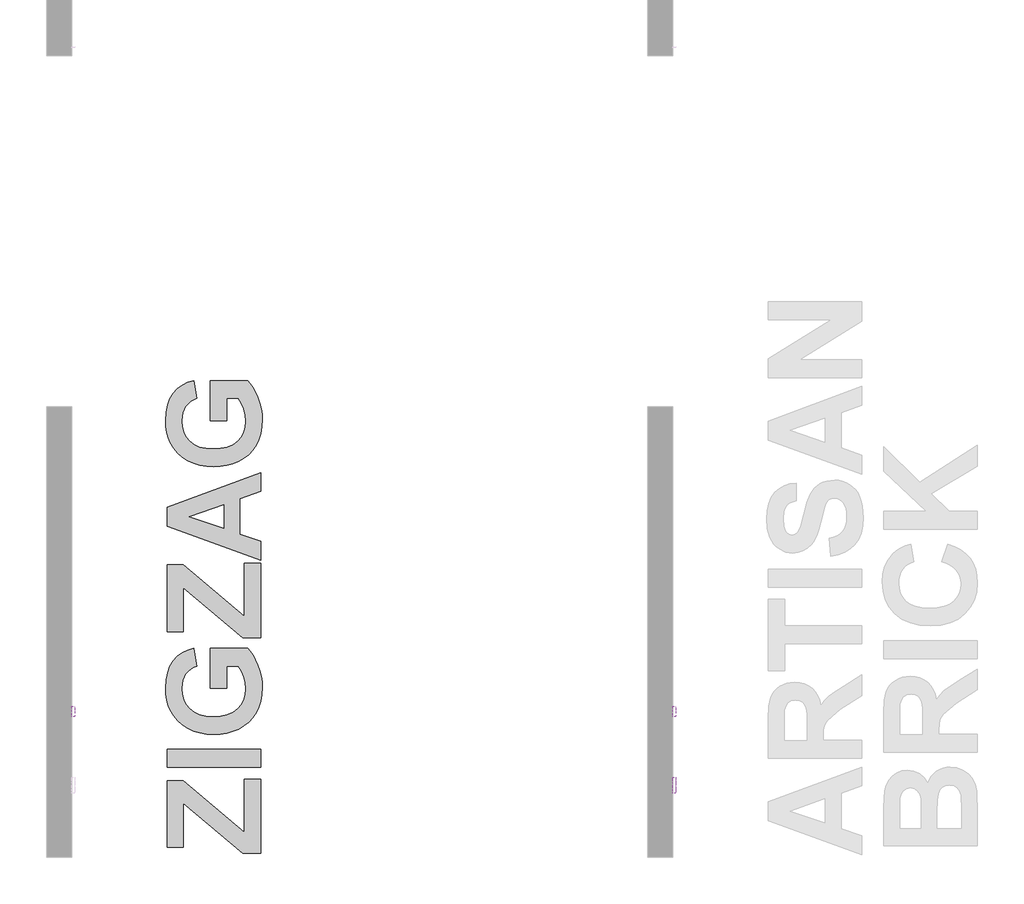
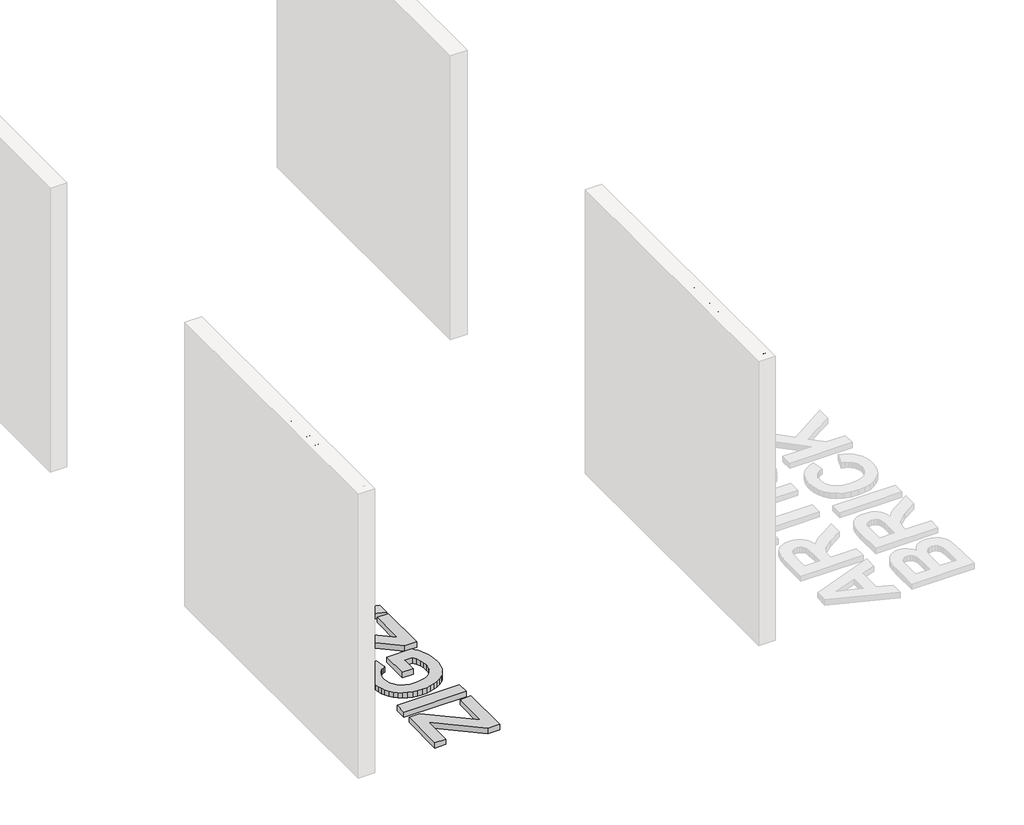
# One storey, part 2 of 9: 4 proxies.
"""IFC4 building model written with IfcOpenShell, lengths in millimetres."""

from ifc_helpers import new_model, si_unit, frame, origin, origin_with_axes, place, context, project, spatial, polyline, outline, extrude, element, save

model = new_model("IFC4")

# Units and contexts
model_context = context("Model", 3, world=origin())
ifc_project = project(units=[si_unit("LENGTHUNIT", "METRE", prefix="MILLI")], contexts=[model_context])

# Site, building, storey
site = spatial("IfcSite", under=ifc_project)
building = spatial("IfcBuilding", under=site)
storey = spatial("IfcBuildingStorey", under=building, Name="PORTOBELLO - SHOWROOM", Elevation=0.0)

# Proxies
placement = place(None, origin())
element("IfcBuildingElementProxy", 1, Name="10mm Arial", ObjectType="10mm Arial", at=placement, inside=storey, context=model_context, shape_type="SweptSolid", body=[
    extrude(outline(polyline([(-5897.7049398, 2548.8308244), (-5857.6058023, 2649.2871345), (-5846.912699, 2649.2871345), (-5806.8135615, 2548.8308244), (-5820.0818388, 2548.8308244), (-5831.5842825, 2580.2234213), (-5872.9587442, 2580.2234213), (-5884.4366625, 2548.8308244), (-5897.7049398, 2548.8308244)]), holes=[polyline([(-5868.3479566, 2592.7804601), (-5836.1705447, 2592.7804601), (-5845.2204418, 2617.4776047), (-5852.2592506, 2636.7300958), (-5858.5132446, 2619.6358457), (-5868.3479566, 2592.7804601)])]), frame((-18784.5594677, 0.0, 0.0), z_axis=(1.0, 0.0, 0.0), x_axis=(0.0, 1.0, 0.0)), (0.0, 0.0, 1.0), 20.0),
    extrude(outline(polyline([(-5749.4484957, 2520.5774872), (-5749.4484957, 2558.8862656), (-5757.4192723, 2550.5721325), (-5768.3085794, 2547.2611945), (-5780.2463501, 2549.8762224), (-5790.4060245, 2557.7213059), (-5797.3589942, 2570.1219949), (-5799.6766508, 2586.4038388), (-5795.9978309, 2606.293992), (-5785.329253, 2619.6358457), (-5770.0008365, 2624.173057), (-5758.3267145, 2620.6536526), (-5749.4484957, 2610.0954393), (-5749.4484957, 2622.6034271), (-5736.891457, 2622.6034271), (-5736.891457, 2520.5774872), (-5749.4484957, 2520.5774872)]), holes=[polyline([(-5787.119612, 2585.7171258), (-5785.706332, 2574.3863603), (-5781.466492, 2566.2929564), (-5775.252352, 2561.4369141), (-5767.9161719, 2559.8182333), (-5760.8865601, 2561.3572063), (-5754.905412, 2565.9741254), (-5750.8127248, 2573.7364355), (-5749.4484957, 2584.7115816), (-5750.8863012, 2596.4439516), (-5755.1997176, 2604.8592522), (-5761.4506458, 2609.9268267), (-5768.7009868, 2611.6160182), (-5775.8164377, 2610.0433227), (-5781.7607976, 2605.3252361), (-5785.7799084, 2597.2778175), (-5787.119612, 2585.7171258)])]), frame((-18784.5594677, 0.0, 0.0), z_axis=(1.0, 0.0, 0.0), x_axis=(0.0, 1.0, 0.0)), (0.0, 0.0, 1.0), 20.0),
    extrude(outline(polyline([(-5670.9670034, 2548.8308244), (-5670.9670034, 2561.5104905), (-5680.8017154, 2550.8235185), (-5693.6285343, 2547.2611945), (-5705.4375464, 2549.7627921), (-5713.5800012, 2556.0413115), (-5717.3201348, 2565.2874123), (-5718.0558988, 2576.9615343), (-5718.0558988, 2622.6034271), (-5705.49886, 2622.6034271), (-5705.49886, 2582.8721717), (-5704.7385706, 2570.0698782), (-5699.7721636, 2562.5528228), (-5690.4156982, 2559.8182333), (-5679.9310614, 2562.6141365), (-5673.0026171, 2570.2292938), (-5670.9670034, 2584.2210723), (-5670.9670034, 2622.6034271), (-5658.4099647, 2622.6034271), (-5658.4099647, 2548.8308244), (-5670.9670034, 2548.8308244)])), frame((-18784.5594677, 0.0, 0.0), z_axis=(1.0, 0.0, 0.0), x_axis=(0.0, 1.0, 0.0)), (0.0, 0.0, 1.0), 20.0),
    extrude(outline(polyline([(-5594.055141, 2558.2486035), (-5606.232035, 2549.7382666), (-5619.6842533, 2547.2611945), (-5630.1780872, 2548.7511166), (-5637.9189375, 2553.2208829), (-5642.6922064, 2560.0083057), (-5644.283296, 2568.4511975), (-5641.8798003, 2578.3840113), (-5635.5644928, 2585.5944984), (-5626.7721131, 2589.7147768), (-5615.9073315, 2591.6032377), (-5594.1287174, 2595.9197198), (-5594.055141, 2598.7156229), (-5597.5132317, 2607.9862492), (-5611.3946457, 2611.6160182), (-5624.0988372, 2609.2002598), (-5630.1566274, 2600.6286093), (-5642.7136662, 2602.1982392), (-5637.2812754, 2614.4609723), (-5626.3429174, 2621.646934), (-5609.7759649, 2624.173057), (-5594.557913, 2621.9412396), (-5585.9617371, 2616.3371705), (-5582.1112389, 2607.8145709), (-5581.4981022, 2596.827162), (-5581.4981022, 2581.20444), (-5580.8604401, 2559.3890376), (-5578.3588425, 2548.8308244), (-5590.9158813, 2548.8308244), (-5594.055141, 2558.2486035)]), holes=[polyline([(-5594.055141, 2583.362681), (-5614.3131762, 2579.5121828), (-5625.1166441, 2577.4765691), (-5630.0094746, 2574.1656311), (-5631.7262573, 2569.3341142), (-5627.9861237, 2562.5405601), (-5617.0109775, 2559.8182333), (-5604.3067859, 2562.8226029), (-5596.1152801, 2570.0944037), (-5594.1287174, 2579.8064884), (-5594.055141, 2583.362681)])]), frame((-18784.5594677, 0.0, 0.0), z_axis=(1.0, 0.0, 0.0), x_axis=(0.0, 1.0, 0.0)), (0.0, 0.0, 1.0), 20.0),
    extrude(outline(polyline([(-5564.2321739, 2548.8308244), (-5564.2321739, 2622.6034271), (-5551.6751351, 2622.6034271), (-5551.6751351, 2610.4633213), (-5543.042171, 2620.4083979), (-5530.7549123, 2624.173057), (-5518.1733481, 2620.3348215), (-5511.2571666, 2609.5804045), (-5501.4592428, 2620.5248939), (-5489.086145, 2624.173057), (-5479.6469062, 2622.6555438), (-5472.6663453, 2618.1030041), (-5468.3529289, 2610.3928106), (-5466.9151234, 2599.402336), (-5466.9151234, 2548.8308244), (-5479.4721622, 2548.8308244), (-5479.4721622, 2594.0067334), (-5480.6371219, 2604.4913703), (-5484.8555021, 2609.6539809), (-5492.029201, 2611.6160182), (-5504.3777733, 2606.5882976), (-5508.0657903, 2600.0461295), (-5509.2951293, 2590.4750662), (-5509.2951293, 2548.8308244), (-5521.852168, 2548.8308244), (-5521.852168, 2595.404685), (-5524.7584358, 2607.5693163), (-5534.2865795, 2611.6160182), (-5543.5817312, 2608.9182169), (-5549.7621487, 2601.0210168), (-5551.6751351, 2586.0359568), (-5551.6751351, 2548.8308244), (-5564.2321739, 2548.8308244)])), frame((-18784.5594677, 0.0, 0.0), z_axis=(1.0, 0.0, 0.0), x_axis=(0.0, 1.0, 0.0)), (0.0, 0.0, 1.0), 20.0),
    extrude(outline(polyline([(-5400.9906699, 2558.2486035), (-5413.1675639, 2549.7382666), (-5426.6197822, 2547.2611945), (-5437.1136161, 2548.7511166), (-5444.8544665, 2553.2208829), (-5449.6277353, 2560.0083057), (-5451.218825, 2568.4511975), (-5448.8153293, 2578.3840113), (-5442.5000217, 2585.5944984), (-5433.707642, 2589.7147768), (-5422.8428604, 2591.6032377), (-5401.0642463, 2595.9197198), (-5400.9906699, 2598.7156229), (-5404.4487607, 2607.9862492), (-5418.3301746, 2611.6160182), (-5431.0343662, 2609.2002598), (-5437.0921564, 2600.6286093), (-5449.6491951, 2602.1982392), (-5444.2168043, 2614.4609723), (-5433.2784463, 2621.646934), (-5416.7114938, 2624.173057), (-5401.493442, 2621.9412396), (-5392.897266, 2616.3371705), (-5389.0467678, 2607.8145709), (-5388.4336311, 2596.827162), (-5388.4336311, 2581.20444), (-5387.795969, 2559.3890376), (-5385.2943714, 2548.8308244), (-5397.8514102, 2548.8308244), (-5400.9906699, 2558.2486035)]), holes=[polyline([(-5400.9906699, 2583.362681), (-5421.2487051, 2579.5121828), (-5432.052173, 2577.4765691), (-5436.9450036, 2574.1656311), (-5438.6617862, 2569.3341142), (-5434.9216526, 2562.5405601), (-5423.9465064, 2559.8182333), (-5411.2423148, 2562.8226029), (-5403.0508091, 2570.0944037), (-5401.0642463, 2579.8064884), (-5400.9906699, 2583.362681)])]), frame((-18784.5594677, 0.0, 0.0), z_axis=(1.0, 0.0, 0.0), x_axis=(0.0, 1.0, 0.0)), (0.0, 0.0, 1.0), 20.0),
    extrude(outline(polyline([(-5371.1677028, 2548.8308244), (-5371.1677028, 2622.6034271), (-5360.1802939, 2622.6034271), (-5360.1802939, 2611.6895946), (-5352.3811956, 2621.7450358), (-5344.5330464, 2624.173057), (-5331.9269567, 2620.2980333), (-5336.1208114, 2609.0408443), (-5344.9499793, 2611.6160182), (-5352.0501018, 2609.1389461), (-5356.5750503, 2602.2718155), (-5358.6106641, 2587.6055867), (-5358.6106641, 2548.8308244), (-5371.1677028, 2548.8308244)])), frame((-18784.5594677, 0.0, 0.0), z_axis=(1.0, 0.0, 0.0), x_axis=(0.0, 1.0, 0.0)), (0.0, 0.0, 1.0), 20.0),
    extrude(outline(polyline([(-18764.5594677, -5311.5217687), (-18764.5594677, -5324.0788074), (-18784.5594677, -5324.0788074), (-18784.5594677, -5311.5217687), (-18764.5594677, -5311.5217687)])), frame((0.0, 0.0, 2636.7300958), z_axis=(0.0, 0.0, 1.0), x_axis=(1.0, 0.0, 0.0)), (0.0, 0.0, 1.0), 12.5570388),
    extrude(outline(polyline([(-18764.5594677, -5311.5217687), (-18764.5594677, -5324.0788074), (-18784.5594677, -5324.0788074), (-18784.5594677, -5311.5217687), (-18764.5594677, -5311.5217687)])), frame((0.0, 0.0, 2548.8308244), z_axis=(0.0, 0.0, 1.0), x_axis=(1.0, 0.0, 0.0)), (0.0, 0.0, 1.0), 73.7726028),
    extrude(outline(polyline([(-5292.6862105, 2548.8308244), (-5292.6862105, 2622.6034271), (-5280.1291718, 2622.6034271), (-5280.1291718, 2612.3027313), (-5270.5274517, 2621.2054756), (-5257.4185899, 2624.173057), (-5245.5605269, 2621.781824), (-5237.467123, 2615.5033046), (-5233.702464, 2606.2694666), (-5233.0402764, 2594.1293607), (-5233.0402764, 2548.8308244), (-5245.5973151, 2548.8308244), (-5245.5973151, 2592.4371035), (-5247.0443177, 2603.5471398), (-5252.1578774, 2609.420989), (-5260.7785788, 2611.6160182), (-5274.4024754, 2606.6863995), (-5278.6974977, 2599.5433574), (-5280.1291718, 2587.9734687), (-5280.1291718, 2548.8308244), (-5292.6862105, 2548.8308244)])), frame((-18784.5594677, 0.0, 0.0), z_axis=(1.0, 0.0, 0.0), x_axis=(0.0, 1.0, 0.0)), (0.0, 0.0, 1.0), 20.0),
    extrude(outline(polyline([(-5164.1237159, 2570.8056422), (-5151.8119318, 2569.2360124), (-5156.2479756, 2559.9592547), (-5163.3266383, 2553.0246791), (-5172.8885045, 2548.7020657), (-5184.7741586, 2547.2611945), (-5199.5078325, 2549.7474637), (-5210.8447293, 2557.2062711), (-5218.0736105, 2569.1532389), (-5220.4832376, 2585.1039891), (-5218.0490851, 2601.5912339), (-5210.7466275, 2613.9214121), (-5199.5630148, 2621.6101458), (-5185.4853971, 2624.173057), (-5171.8461722, 2621.6162771), (-5160.947668, 2613.9459375), (-5153.8015603, 2601.6402848), (-5151.4195244, 2585.1775655), (-5151.4931008, 2581.7930512), (-5207.9261988, 2581.7930512), (-5205.7526294, 2572.3936662), (-5200.703449, 2565.483616), (-5193.4163198, 2561.234579), (-5184.5289039, 2559.8182333), (-5172.2171198, 2562.4424582), (-5164.1237159, 2570.8056422)]), holes=[polyline([(-5207.9261988, 2594.3500899), (-5163.9765631, 2594.3500899), (-5169.0042837, 2605.7299063), (-5176.3251354, 2610.1444902), (-5185.5344481, 2611.6160182), (-5200.9977546, 2606.9193914), (-5205.862994, 2601.4287526), (-5207.9261988, 2594.3500899)])]), frame((-18784.5594677, 0.0, 0.0), z_axis=(1.0, 0.0, 0.0), x_axis=(0.0, 1.0, 0.0)), (0.0, 0.0, 1.0), 20.0),
])
element("IfcBuildingElementProxy", 2, Name="10mm Arial Narrow", ObjectType="10mm Arial Narrow", at=placement, inside=storey, context=model_context, shape_type="SweptSolid", body=[
    extrude(outline(polyline([(-5106.4830429, 2548.8308244), (-5106.4830429, 2649.5494281), (-5075.1861582, 2649.5494281), (-5058.8904567, 2647.6711074), (-5047.4174705, 2638.1906642), (-5043.1277921, 2621.1715554), (-5044.9141005, 2609.0957299), (-5050.2730257, 2599.4693361), (-5060.0168145, 2593.1680777), (-5074.9577138, 2591.0676582), (-5096.7360812, 2591.0676582), (-5096.7360812, 2548.8308244), (-5106.4830429, 2548.8308244)]), holes=[polyline([(-5096.7360812, 2602.4391135), (-5073.7647263, 2602.4391135), (-5057.9005309, 2606.9699277), (-5052.8747538, 2620.6385184), (-5055.3495682, 2630.8042949), (-5061.3271971, 2636.6042447), (-5073.9931707, 2638.1779729), (-5096.7360812, 2638.1779729), (-5096.7360812, 2602.4391135)])]), frame((-18784.5594677, 0.0, 0.0), z_axis=(1.0, 0.0, 0.0), x_axis=(0.0, 1.0, 0.0)), (0.0, 0.0, 1.0), 20.0),
    extrude(outline(polyline([(-5035.0053241, 2585.3819306), (-5033.0508552, 2601.9727061), (-5027.1874486, 2613.9247909), (-5018.3288819, 2621.1493455), (-5007.3889327, 2623.5575304), (-4996.5758971, 2621.1493455), (-4987.6919477, 2613.9247909), (-4981.752393, 2602.1630765), (-4979.7725414, 2586.143412), (-4981.7174917, 2568.9815254), (-4987.5523428, 2556.8390702), (-4996.401391, 2549.6145156), (-5007.3889327, 2547.2063308), (-5018.2495609, 2549.6208613), (-5027.1239918, 2556.8644529), (-5033.034991, 2568.8228834), (-5035.0053241, 2585.3819306)]), holes=[polyline([(-5025.2583624, 2585.4073133), (-5023.9543256, 2572.8555619), (-5020.042215, 2563.9843038), (-5014.2010182, 2558.7110453), (-5007.1097229, 2556.9532924), (-5000.3896497, 2558.7269095), (-4994.6975764, 2564.0477606), (-4990.8140214, 2572.9348829), (-4989.519503, 2585.4073133), (-4990.8235399, 2597.9209906), (-4994.7356505, 2606.7795573), (-5000.5768472, 2612.0528159), (-5007.6681426, 2613.8105687), (-5014.4358083, 2612.0432974), (-5020.1183631, 2606.7414833), (-5023.9733626, 2597.873398), (-5025.2583624, 2585.4073133)])]), frame((-18784.5594677, 0.0, 0.0), z_axis=(1.0, 0.0, 0.0), x_axis=(0.0, 1.0, 0.0)), (0.0, 0.0, 1.0), 20.0),
    extrude(outline(polyline([(-4908.2948226, 2556.9532924), (-4906.670329, 2547.2063308), (-4914.0313156, 2547.2063308), (-4922.3060799, 2549.3257873), (-4926.6211411, 2555.1257371), (-4927.7887459, 2569.7715623), (-4927.7887459, 2612.1860751), (-4935.9112139, 2612.1860751), (-4935.9112139, 2615.4350623), (-4937.5357075, 2610.5615815), (-4945.0997559, 2612.1860751), (-4951.1789156, 2609.8635569), (-4955.0497793, 2603.3782738), (-4957.0296308, 2587.9709673), (-4957.0296308, 2548.8308244), (-4966.7765925, 2548.8308244), (-4966.7765925, 2621.9330368), (-4957.0296308, 2621.9330368), (-4957.0296308, 2612.2368406), (-4950.7854835, 2621.3238517), (-4944.3890399, 2623.5575304), (-4935.9112139, 2621.9330368), (-4927.7887459, 2621.9330368), (-4927.7887459, 2638.1779729), (-4918.0417842, 2646.3004409), (-4918.0417842, 2621.9330368), (-4908.2948226, 2621.9330368), (-4908.2948226, 2612.1860751), (-4918.0417842, 2612.1860751), (-4918.0417842, 2567.5378836), (-4917.178772, 2559.5423291), (-4912.5591183, 2556.9532924), (-4908.2948226, 2556.9532924)])), frame((-18784.5594677, 0.0, 0.0), z_axis=(1.0, 0.0, 0.0), x_axis=(0.0, 1.0, 0.0)), (0.0, 0.0, 1.0), 20.0),
    extrude(outline(polyline([(-4901.7968481, 2585.3819306), (-4899.8423793, 2601.9727061), (-4893.9789726, 2613.9247909), (-4885.1204059, 2621.1493455), (-4874.1804568, 2623.5575304), (-4863.3674212, 2621.1493455), (-4854.4834718, 2613.9247909), (-4848.543917, 2602.1630765), (-4846.5640654, 2586.143412), (-4848.5090158, 2568.9815254), (-4854.3438669, 2556.8390702), (-4863.1929151, 2549.6145156), (-4874.1804568, 2547.2063308), (-4885.041085, 2549.6208613), (-4893.9155159, 2556.8644529), (-4899.8265151, 2568.8228834), (-4901.7968481, 2585.3819306)]), holes=[polyline([(-4892.0498865, 2585.4073133), (-4890.7458496, 2572.8555619), (-4886.833739, 2563.9843038), (-4880.9925423, 2558.7110453), (-4873.9012469, 2556.9532924), (-4867.1811738, 2558.7269095), (-4861.4891005, 2564.0477606), (-4857.6055454, 2572.9348829), (-4856.3110271, 2585.4073133), (-4857.6150639, 2597.9209906), (-4861.5271745, 2606.7795573), (-4867.3683713, 2612.0528159), (-4874.4596666, 2613.8105687), (-4881.2273324, 2612.0432974), (-4886.9098872, 2606.7414833), (-4890.7648867, 2597.873398), (-4892.0498865, 2585.4073133)])]), frame((-18784.5594677, 0.0, 0.0), z_axis=(1.0, 0.0, 0.0), x_axis=(0.0, 1.0, 0.0)), (0.0, 0.0, 1.0), 20.0),
    extrude(outline(polyline([(-4823.8211549, 2548.8308244), (-4833.5681166, 2548.8308244), (-4833.5681166, 2649.5494281), (-4823.8211549, 2649.5494281), (-4823.8211549, 2614.140544), (-4816.4220942, 2621.2223208), (-4807.2208608, 2623.5575304), (-4794.3391342, 2619.3566915), (-4785.0617527, 2606.6272611), (-4781.5843211, 2585.9403503), (-4783.5165801, 2569.4860068), (-4789.3133571, 2557.2832677), (-4797.6864794, 2549.725565), (-4807.3477744, 2547.2063308), (-4816.6886127, 2549.8207502), (-4823.8211549, 2557.5878602), (-4823.8211549, 2548.8308244)]), holes=[polyline([(-4823.8211549, 2585.9403503), (-4821.7397725, 2568.692797), (-4815.8509831, 2559.9611439), (-4807.3985398, 2556.9532924), (-4801.4558122, 2558.7427737), (-4796.2174549, 2564.1112174), (-4791.3312827, 2585.5342269), (-4796.0397759, 2606.9699277), (-4801.2844789, 2612.1004085), (-4807.6016015, 2613.8105687), (-4813.5792304, 2612.0210875), (-4818.8715259, 2606.6526438), (-4823.8211549, 2585.9403503)])]), frame((-18784.5594677, 0.0, 0.0), z_axis=(1.0, 0.0, 0.0), x_axis=(0.0, 1.0, 0.0)), (0.0, 0.0, 1.0), 20.0),
    extrude(outline(polyline([(-4729.6005256, 2571.5737349), (-4719.8535639, 2569.9492413), (-4723.5530943, 2560.0626747), (-4729.3720812, 2552.9428238), (-4737.0757345, 2548.640454), (-4746.4292641, 2547.2063308), (-4758.0228181, 2549.6208613), (-4767.1669403, 2556.8644529), (-4773.1064951, 2568.6705872), (-4775.0863466, 2584.7727455), (-4773.0969765, 2601.4396692), (-4767.1288662, 2613.6201984), (-4758.1148304, 2621.0731974), (-4746.9876837, 2623.5575304), (-4736.3047346, 2621.158864), (-4727.5572172, 2613.962865), (-4721.7223662, 2602.2233604), (-4719.7774158, 2586.1941774), (-4719.8535639, 2582.9451902), (-4765.339385, 2582.9451902), (-4759.3363734, 2563.5020323), (-4753.4063372, 2558.5904774), (-4746.3023505, 2556.9532924), (-4736.1238827, 2560.608403), (-4729.6005256, 2571.5737349)]), holes=[polyline([(-4764.6794345, 2592.6921518), (-4729.6005256, 2592.6921518), (-4733.8648213, 2606.9572363), (-4739.6901539, 2612.0972356), (-4746.9115356, 2613.8105687), (-4759.1206204, 2608.0994584), (-4764.6794345, 2592.6921518)])]), frame((-18784.5594677, 0.0, 0.0), z_axis=(1.0, 0.0, 0.0), x_axis=(0.0, 1.0, 0.0)), (0.0, 0.0, 1.0), 20.0),
    extrude(outline(polyline([(-18764.5594677, -4697.1106534), (-18764.5594677, -4706.8576151), (-18784.5594677, -4706.8576151), (-18784.5594677, -4697.1106534), (-18764.5594677, -4697.1106534)])), frame((0.0, 0.0, 2548.8308244), z_axis=(0.0, 0.0, 1.0), x_axis=(1.0, 0.0, 0.0)), (0.0, 0.0, 1.0), 100.7186038),
    extrude(outline(polyline([(-18764.5594677, -4671.1187557), (-18764.5594677, -4680.8657173), (-18784.5594677, -4680.8657173), (-18784.5594677, -4671.1187557), (-18764.5594677, -4671.1187557)])), frame((0.0, 0.0, 2548.8308244), z_axis=(0.0, 0.0, 1.0), x_axis=(1.0, 0.0, 0.0)), (0.0, 0.0, 1.0), 100.7186038),
    extrude(outline(polyline([(-4659.7473004, 2585.3819306), (-4657.7928315, 2601.9727061), (-4651.9294249, 2613.9247909), (-4643.0708582, 2621.1493455), (-4632.1309091, 2623.5575304), (-4621.3178735, 2621.1493455), (-4612.433924, 2613.9247909), (-4606.4943693, 2602.1630765), (-4604.5145177, 2586.143412), (-4606.4594681, 2568.9815254), (-4612.2943191, 2556.8390702), (-4621.1433673, 2549.6145156), (-4632.1309091, 2547.2063308), (-4642.9915372, 2549.6208613), (-4651.8659681, 2556.8644529), (-4657.7769673, 2568.8228834), (-4659.7473004, 2585.3819306)]), holes=[polyline([(-4650.0003388, 2585.4073133), (-4648.6963019, 2572.8555619), (-4644.7841913, 2563.9843038), (-4638.9429946, 2558.7110453), (-4631.8516992, 2556.9532924), (-4625.131626, 2558.7269095), (-4619.4395527, 2564.0477606), (-4615.5559977, 2572.9348829), (-4614.2614794, 2585.4073133), (-4615.5655162, 2597.9209906), (-4619.4776268, 2606.7795573), (-4625.3188236, 2612.0528159), (-4632.4101189, 2613.8105687), (-4639.1777847, 2612.0432974), (-4644.8603394, 2606.7414833), (-4648.7153389, 2597.873398), (-4650.0003388, 2585.4073133)])]), frame((-18784.5594677, 0.0, 0.0), z_axis=(1.0, 0.0, 0.0), x_axis=(0.0, 1.0, 0.0)), (0.0, 0.0, 1.0), 20.0),
])
element("IfcBuildingElementProxy", 3, Name="10mm Arial Narrow", ObjectType="10mm Arial Narrow", at=placement, inside=storey, context=model_context, shape_type="SweptSolid", body=[
    extrude(outline(polyline([(-5106.4830429, 2548.8308244), (-5106.4830429, 2649.5494281), (-5075.1861582, 2649.5494281), (-5058.8904567, 2647.6711074), (-5047.4174705, 2638.1906642), (-5043.1277921, 2621.1715554), (-5044.9141005, 2609.0957299), (-5050.2730257, 2599.4693361), (-5060.0168145, 2593.1680777), (-5074.9577138, 2591.0676582), (-5096.7360812, 2591.0676582), (-5096.7360812, 2548.8308244), (-5106.4830429, 2548.8308244)]), holes=[polyline([(-5096.7360812, 2602.4391135), (-5073.7647263, 2602.4391135), (-5057.9005309, 2606.9699277), (-5052.8747538, 2620.6385184), (-5055.3495682, 2630.8042949), (-5061.3271971, 2636.6042447), (-5073.9931707, 2638.1779729), (-5096.7360812, 2638.1779729), (-5096.7360812, 2602.4391135)])]), frame((-22384.5594677, 0.0, 0.0), z_axis=(1.0, 0.0, 0.0), x_axis=(0.0, 1.0, 0.0)), (0.0, 0.0, 1.0), 20.0),
    extrude(outline(polyline([(-5035.0053241, 2585.3819306), (-5033.0508552, 2601.9727061), (-5027.1874486, 2613.9247909), (-5018.3288819, 2621.1493455), (-5007.3889327, 2623.5575304), (-4996.5758971, 2621.1493455), (-4987.6919477, 2613.9247909), (-4981.752393, 2602.1630765), (-4979.7725414, 2586.143412), (-4981.7174917, 2568.9815254), (-4987.5523428, 2556.8390702), (-4996.401391, 2549.6145156), (-5007.3889327, 2547.2063308), (-5018.2495609, 2549.6208613), (-5027.1239918, 2556.8644529), (-5033.034991, 2568.8228834), (-5035.0053241, 2585.3819306)]), holes=[polyline([(-5025.2583624, 2585.4073133), (-5023.9543256, 2572.8555619), (-5020.042215, 2563.9843038), (-5014.2010182, 2558.7110453), (-5007.1097229, 2556.9532924), (-5000.3896497, 2558.7269095), (-4994.6975764, 2564.0477606), (-4990.8140214, 2572.9348829), (-4989.519503, 2585.4073133), (-4990.8235399, 2597.9209906), (-4994.7356505, 2606.7795573), (-5000.5768472, 2612.0528159), (-5007.6681426, 2613.8105687), (-5014.4358083, 2612.0432974), (-5020.1183631, 2606.7414833), (-5023.9733626, 2597.873398), (-5025.2583624, 2585.4073133)])]), frame((-22384.5594677, 0.0, 0.0), z_axis=(1.0, 0.0, 0.0), x_axis=(0.0, 1.0, 0.0)), (0.0, 0.0, 1.0), 20.0),
    extrude(outline(polyline([(-4908.2948226, 2556.9532924), (-4906.670329, 2547.2063308), (-4914.0313156, 2547.2063308), (-4922.3060799, 2549.3257873), (-4926.6211411, 2555.1257371), (-4927.7887459, 2569.7715623), (-4927.7887459, 2612.1860751), (-4935.9112139, 2612.1860751), (-4935.9112139, 2615.4350623), (-4937.5357075, 2610.5615815), (-4945.0997559, 2612.1860751), (-4951.1789156, 2609.8635569), (-4955.0497793, 2603.3782738), (-4957.0296308, 2587.9709673), (-4957.0296308, 2548.8308244), (-4966.7765925, 2548.8308244), (-4966.7765925, 2621.9330368), (-4957.0296308, 2621.9330368), (-4957.0296308, 2612.2368406), (-4950.7854835, 2621.3238517), (-4944.3890399, 2623.5575304), (-4935.9112139, 2621.9330368), (-4927.7887459, 2621.9330368), (-4927.7887459, 2638.1779729), (-4918.0417842, 2646.3004409), (-4918.0417842, 2621.9330368), (-4908.2948226, 2621.9330368), (-4908.2948226, 2612.1860751), (-4918.0417842, 2612.1860751), (-4918.0417842, 2567.5378836), (-4917.178772, 2559.5423291), (-4912.5591183, 2556.9532924), (-4908.2948226, 2556.9532924)])), frame((-22384.5594677, 0.0, 0.0), z_axis=(1.0, 0.0, 0.0), x_axis=(0.0, 1.0, 0.0)), (0.0, 0.0, 1.0), 20.0),
    extrude(outline(polyline([(-4901.7968481, 2585.3819306), (-4899.8423793, 2601.9727061), (-4893.9789726, 2613.9247909), (-4885.1204059, 2621.1493455), (-4874.1804568, 2623.5575304), (-4863.3674212, 2621.1493455), (-4854.4834718, 2613.9247909), (-4848.543917, 2602.1630765), (-4846.5640654, 2586.143412), (-4848.5090158, 2568.9815254), (-4854.3438669, 2556.8390702), (-4863.1929151, 2549.6145156), (-4874.1804568, 2547.2063308), (-4885.041085, 2549.6208613), (-4893.9155159, 2556.8644529), (-4899.8265151, 2568.8228834), (-4901.7968481, 2585.3819306)]), holes=[polyline([(-4892.0498865, 2585.4073133), (-4890.7458496, 2572.8555619), (-4886.833739, 2563.9843038), (-4880.9925423, 2558.7110453), (-4873.9012469, 2556.9532924), (-4867.1811738, 2558.7269095), (-4861.4891005, 2564.0477606), (-4857.6055454, 2572.9348829), (-4856.3110271, 2585.4073133), (-4857.6150639, 2597.9209906), (-4861.5271745, 2606.7795573), (-4867.3683713, 2612.0528159), (-4874.4596666, 2613.8105687), (-4881.2273324, 2612.0432974), (-4886.9098872, 2606.7414833), (-4890.7648867, 2597.873398), (-4892.0498865, 2585.4073133)])]), frame((-22384.5594677, 0.0, 0.0), z_axis=(1.0, 0.0, 0.0), x_axis=(0.0, 1.0, 0.0)), (0.0, 0.0, 1.0), 20.0),
    extrude(outline(polyline([(-4823.8211549, 2548.8308244), (-4833.5681166, 2548.8308244), (-4833.5681166, 2649.5494281), (-4823.8211549, 2649.5494281), (-4823.8211549, 2614.140544), (-4816.4220942, 2621.2223208), (-4807.2208608, 2623.5575304), (-4794.3391342, 2619.3566915), (-4785.0617527, 2606.6272611), (-4781.5843211, 2585.9403503), (-4783.5165801, 2569.4860068), (-4789.3133571, 2557.2832677), (-4797.6864794, 2549.725565), (-4807.3477744, 2547.2063308), (-4816.6886127, 2549.8207502), (-4823.8211549, 2557.5878602), (-4823.8211549, 2548.8308244)]), holes=[polyline([(-4823.8211549, 2585.9403503), (-4821.7397725, 2568.692797), (-4815.8509831, 2559.9611439), (-4807.3985398, 2556.9532924), (-4801.4558122, 2558.7427737), (-4796.2174549, 2564.1112174), (-4791.3312827, 2585.5342269), (-4796.0397759, 2606.9699277), (-4801.2844789, 2612.1004085), (-4807.6016015, 2613.8105687), (-4813.5792304, 2612.0210875), (-4818.8715259, 2606.6526438), (-4823.8211549, 2585.9403503)])]), frame((-22384.5594677, 0.0, 0.0), z_axis=(1.0, 0.0, 0.0), x_axis=(0.0, 1.0, 0.0)), (0.0, 0.0, 1.0), 20.0),
    extrude(outline(polyline([(-4729.6005256, 2571.5737349), (-4719.8535639, 2569.9492413), (-4723.5530943, 2560.0626747), (-4729.3720812, 2552.9428238), (-4737.0757345, 2548.640454), (-4746.4292641, 2547.2063308), (-4758.0228181, 2549.6208613), (-4767.1669403, 2556.8644529), (-4773.1064951, 2568.6705872), (-4775.0863466, 2584.7727455), (-4773.0969765, 2601.4396692), (-4767.1288662, 2613.6201984), (-4758.1148304, 2621.0731974), (-4746.9876837, 2623.5575304), (-4736.3047346, 2621.158864), (-4727.5572172, 2613.962865), (-4721.7223662, 2602.2233604), (-4719.7774158, 2586.1941774), (-4719.8535639, 2582.9451902), (-4765.339385, 2582.9451902), (-4759.3363734, 2563.5020323), (-4753.4063372, 2558.5904774), (-4746.3023505, 2556.9532924), (-4736.1238827, 2560.608403), (-4729.6005256, 2571.5737349)]), holes=[polyline([(-4764.6794345, 2592.6921518), (-4729.6005256, 2592.6921518), (-4733.8648213, 2606.9572363), (-4739.6901539, 2612.0972356), (-4746.9115356, 2613.8105687), (-4759.1206204, 2608.0994584), (-4764.6794345, 2592.6921518)])]), frame((-22384.5594677, 0.0, 0.0), z_axis=(1.0, 0.0, 0.0), x_axis=(0.0, 1.0, 0.0)), (0.0, 0.0, 1.0), 20.0),
    extrude(outline(polyline([(-22364.5594677, -4697.1106534), (-22364.5594677, -4706.8576151), (-22384.5594677, -4706.8576151), (-22384.5594677, -4697.1106534), (-22364.5594677, -4697.1106534)])), frame((0.0, 0.0, 2548.8308244), z_axis=(0.0, 0.0, 1.0), x_axis=(1.0, 0.0, 0.0)), (0.0, 0.0, 1.0), 100.7186038),
    extrude(outline(polyline([(-22364.5594677, -4671.1187557), (-22364.5594677, -4680.8657173), (-22384.5594677, -4680.8657173), (-22384.5594677, -4671.1187557), (-22364.5594677, -4671.1187557)])), frame((0.0, 0.0, 2548.8308244), z_axis=(0.0, 0.0, 1.0), x_axis=(1.0, 0.0, 0.0)), (0.0, 0.0, 1.0), 100.7186038),
    extrude(outline(polyline([(-4659.7473004, 2585.3819306), (-4657.7928315, 2601.9727061), (-4651.9294249, 2613.9247909), (-4643.0708582, 2621.1493455), (-4632.1309091, 2623.5575304), (-4621.3178735, 2621.1493455), (-4612.433924, 2613.9247909), (-4606.4943693, 2602.1630765), (-4604.5145177, 2586.143412), (-4606.4594681, 2568.9815254), (-4612.2943191, 2556.8390702), (-4621.1433673, 2549.6145156), (-4632.1309091, 2547.2063308), (-4642.9915372, 2549.6208613), (-4651.8659681, 2556.8644529), (-4657.7769673, 2568.8228834), (-4659.7473004, 2585.3819306)]), holes=[polyline([(-4650.0003388, 2585.4073133), (-4648.6963019, 2572.8555619), (-4644.7841913, 2563.9843038), (-4638.9429946, 2558.7110453), (-4631.8516992, 2556.9532924), (-4625.131626, 2558.7269095), (-4619.4395527, 2564.0477606), (-4615.5559977, 2572.9348829), (-4614.2614794, 2585.4073133), (-4615.5655162, 2597.9209906), (-4619.4776268, 2606.7795573), (-4625.3188236, 2612.0528159), (-4632.4101189, 2613.8105687), (-4639.1777847, 2612.0432974), (-4644.8603394, 2606.7414833), (-4648.7153389, 2597.873398), (-4650.0003388, 2585.4073133)])]), frame((-22384.5594677, 0.0, 0.0), z_axis=(1.0, 0.0, 0.0), x_axis=(0.0, 1.0, 0.0)), (0.0, 0.0, 1.0), 20.0),
])
element("IfcBuildingElementProxy", 4, Name="550mm Arial", ObjectType="550mm Arial", at=placement, inside=storey, context=model_context, shape_type="SweptSolid", body=[
    extrude(outline(polyline([(-21251.2604313, -5923.840599), (-21358.1447494, -5923.840599), (-21714.4258097, -5623.0892821), (-21714.4258097, -5888.2124929), (-21812.4031013, -5888.2124929), (-21812.4031013, -5487.3963001), (-21714.4258097, -5487.3963001), (-21349.2377229, -5795.6629206), (-21349.2377229, -5478.4892736), (-21251.2604313, -5478.4892736), (-21251.2604313, -5923.840599)])), origin_with_axes(), (0.0, 0.0, 1.0), 50.0),
    extrude(outline(polyline([(-21251.2604313, -5407.2330615), (-21812.4031013, -5407.2330615), (-21812.4031013, -5300.3487434), (-21251.2604313, -5300.3487434), (-21251.2604313, -5407.2330615)])), origin_with_axes(), (0.0, 0.0, 1.0), 50.0),
    extrude(outline(polyline([(-21456.1220409, -4935.1606566), (-21554.0993325, -4935.1606566), (-21554.0993325, -4694.6709409), (-21330.3102915, -4694.6709409), (-21313.3704145, -4714.172458), (-21297.4830278, -4737.6055921), (-21268.8657259, -4796.266712), (-21257.2665854, -4829.6332684), (-21248.981485, -4863.2085831), (-21244.0104248, -4896.9926563), (-21242.3534048, -4930.985488), (-21244.6584458, -4972.8850453), (-21251.5735689, -5012.0185533), (-21263.0987741, -5048.3860122), (-21279.2340614, -5081.9874217), (-21299.6532457, -5112.205205), (-21324.030142, -5138.421785), (-21352.3647502, -5160.6371616), (-21384.6570705, -5178.851335), (-21419.6806469, -5193.0382102), (-21456.2090236, -5203.1716925), (-21494.2422008, -5209.2517819), (-21533.7801783, -5211.2784784), (-21576.2668687, -5208.9864847), (-21616.3267423, -5202.1105038), (-21653.9597992, -5190.6505356), (-21689.1660392, -5174.6065802), (-21721.1800148, -5154.1439045), (-21749.2362785, -5129.4277758), (-21773.3348302, -5100.458194), (-21793.4756699, -5067.2351591), (-21805.6532452, -5038.6526502), (-21814.3515133, -5006.7647994), (-21819.5704741, -4971.5716068), (-21821.3101278, -4933.0730723), (-21818.5005872, -4883.8017328), (-21810.0719654, -4840.2277589), (-21796.0242625, -4802.3511506), (-21776.3574784, -4770.1719078), (-21751.7326814, -4743.4551774), (-21722.8109401, -4721.9661062), (-21689.5922543, -4705.704694), (-21652.0766241, -4694.6709409), (-21634.2625711, -4801.555259), (-21653.8380234, -4809.1836401), (-21671.2302104, -4819.5432774), (-21686.4391321, -4832.6341709), (-21699.4647886, -4848.4563205), (-21709.9070594, -4866.7139852), (-21717.3658243, -4887.1114238), (-21721.8410832, -4909.6486364), (-21723.3328362, -4934.3256229), (-21720.4189164, -4971.3019605), (-21711.677157, -5004.2944913), (-21697.1075579, -5033.3032153), (-21676.7101193, -5058.3281326), (-21650.5718237, -5078.4820197), (-21618.7796539, -5092.8776534), (-21581.3336099, -5101.5150336), (-21538.2336916, -5104.3941603), (-21491.8501771, -5101.5324301), (-21451.6511312, -5092.9472395), (-21417.6365539, -5078.6385885), (-21389.8064452, -5058.6064771), (-21368.1608051, -5033.9294906), (-21352.6996336, -5005.6862142), (-21343.4229307, -4973.8766478), (-21340.3306964, -4938.5007916), (-21343.7230209, -4901.8114968), (-21353.8999945, -4864.9482367), (-21368.9132052, -4830.6248709), (-21386.8142409, -4801.555259), (-21456.1220409, -4801.555259), (-21456.1220409, -4935.1606566)])), origin_with_axes(), (0.0, 0.0, 1.0), 50.0),
    extrude(outline(polyline([(-21251.2604313, -4632.3217554), (-21358.1447494, -4632.3217554), (-21714.4258097, -4331.5704385), (-21714.4258097, -4596.6936494), (-21812.4031013, -4596.6936494), (-21812.4031013, -4195.8774565), (-21714.4258097, -4195.8774565), (-21349.2377229, -4504.144077), (-21349.2377229, -4186.97043), (-21251.2604313, -4186.97043), (-21251.2604313, -4632.3217554)])), origin_with_axes(), (0.0, 0.0, 1.0), 50.0),
    extrude(outline(polyline([(-21251.2604313, -3643.641813), (-21251.2604313, -3755.9538504), (-21375.9588024, -3799.9322938), (-21375.9588024, -4011.8916902), (-21251.2604313, -4055.3134444), (-21251.2604313, -4169.156377), (-21812.4031013, -3964.2947673), (-21812.4031013, -3850.4518348), (-21251.2604313, -3643.641813)]), holes=[polyline([(-21473.936094, -3834.1686769), (-21678.7977036, -3906.399095), (-21473.936094, -3977.6553071), (-21473.936094, -3834.1686769)])]), origin_with_axes(), (0.0, 0.0, 1.0), 50.0),
    extrude(outline(polyline([(-21456.1220409, -3331.8958853), (-21554.0993325, -3331.8958853), (-21554.0993325, -3091.4061696), (-21330.3102915, -3091.4061696), (-21313.3704145, -3110.9076866), (-21297.4830278, -3134.3408208), (-21268.8657259, -3193.0019407), (-21257.2665854, -3226.368497), (-21248.981485, -3259.9438118), (-21244.0104248, -3293.727885), (-21242.3534048, -3327.7207166), (-21244.6584458, -3369.6202739), (-21251.5735689, -3408.753782), (-21263.0987741, -3445.1212408), (-21279.2340614, -3478.7226504), (-21299.6532457, -3508.9404337), (-21324.030142, -3535.1570136), (-21352.3647502, -3557.3723903), (-21384.6570705, -3575.5865636), (-21419.6806469, -3589.7734389), (-21456.2090236, -3599.9069212), (-21494.2422008, -3605.9870106), (-21533.7801783, -3608.013707), (-21576.2668687, -3605.7217134), (-21616.3267423, -3598.8457325), (-21653.9597992, -3587.3857643), (-21689.1660392, -3571.3418088), (-21721.1800148, -3550.8791332), (-21749.2362785, -3526.1630044), (-21773.3348302, -3497.1934226), (-21793.4756699, -3463.9703877), (-21805.6532452, -3435.3878788), (-21814.3515133, -3403.5000281), (-21819.5704741, -3368.3068354), (-21821.3101278, -3329.8083009), (-21818.5005872, -3280.5369614), (-21810.0719654, -3236.9629875), (-21796.0242625, -3199.0863792), (-21776.3574784, -3166.9071365), (-21751.7326814, -3140.1904061), (-21722.8109401, -3118.7013348), (-21689.5922543, -3102.4399226), (-21652.0766241, -3091.4061696), (-21634.2625711, -3198.2904877), (-21653.8380234, -3205.9188688), (-21671.2302104, -3216.278506), (-21686.4391321, -3229.3693995), (-21699.4647886, -3245.1915491), (-21709.9070594, -3263.4492138), (-21717.3658243, -3283.8466524), (-21721.8410832, -3306.383865), (-21723.3328362, -3331.0608515), (-21720.4189164, -3368.0371891), (-21711.677157, -3401.0297199), (-21697.1075579, -3430.038444), (-21676.7101193, -3455.0633612), (-21650.5718237, -3475.2172483), (-21618.7796539, -3489.612882), (-21581.3336099, -3498.2502622), (-21538.2336916, -3501.1293889), (-21491.8501771, -3498.2676587), (-21451.6511312, -3489.6824681), (-21417.6365539, -3475.3738172), (-21389.8064452, -3455.3417058), (-21368.1608051, -3430.6647193), (-21352.6996336, -3402.4214428), (-21343.4229307, -3370.6118765), (-21340.3306964, -3335.2360202), (-21343.7230209, -3298.5467255), (-21353.8999945, -3261.6834654), (-21368.9132052, -3227.3600996), (-21386.8142409, -3198.2904877), (-21456.1220409, -3198.2904877), (-21456.1220409, -3331.8958853)])), origin_with_axes(), (0.0, 0.0, 1.0), 50.0),
])

save(model, "model.ifc")
